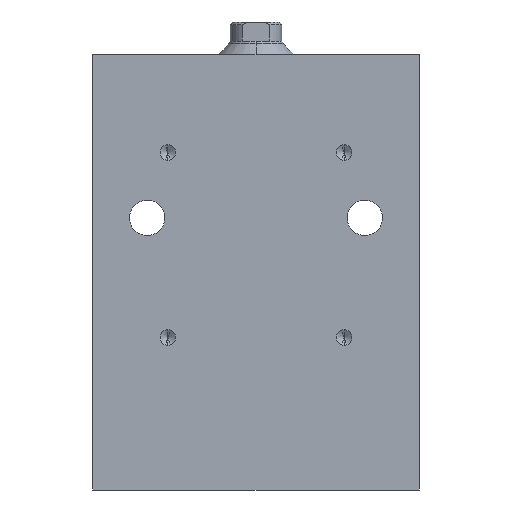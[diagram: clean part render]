
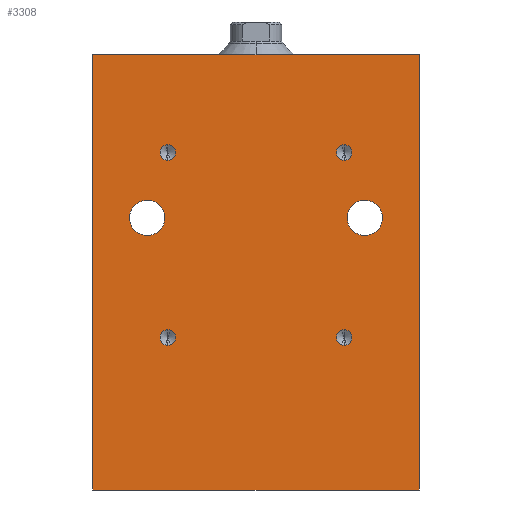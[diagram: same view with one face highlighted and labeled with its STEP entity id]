
A CAD part, left-side view. The second image highlights one B-rep face of the part: STEP entity #3308.
In plain terms, the highlighted planar face has unit normal (-1, 0, 0).
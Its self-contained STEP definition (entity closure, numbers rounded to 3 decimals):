
#74 = DIRECTION ( 'NONE',  ( -1., 0., 0. ) ) ;
#78 = CARTESIAN_POINT ( 'NONE',  ( -17.5, 16.2, -24. ) ) ;
#84 = LINE ( 'NONE', #1264, #3901 ) ;
#170 = CARTESIAN_POINT ( 'NONE',  ( -17.5, 20., -36. ) ) ;
#205 = VERTEX_POINT ( 'NONE', #2623 ) ;
#229 = AXIS2_PLACEMENT_3D ( 'NONE', #78, #672, #1895 ) ;
#324 = DIRECTION ( 'NONE',  ( 0., 0., 1. ) ) ;
#372 = DIRECTION ( 'NONE',  ( 0., 0., -1. ) ) ;
#393 = DIRECTION ( 'NONE',  ( -1., 0., 0. ) ) ;
#419 = CARTESIAN_POINT ( 'NONE',  ( -17.5, 30., -86. ) ) ;
#424 = VERTEX_POINT ( 'NONE', #1513 ) ;
#432 = AXIS2_PLACEMENT_3D ( 'NONE', #1280, #2557, #2540 ) ;
#446 = AXIS2_PLACEMENT_3D ( 'NONE', #2851, #74, #2534 ) ;
#452 = FACE_BOUND ( 'NONE', #1688, .T. ) ;
#463 = CARTESIAN_POINT ( 'NONE',  ( -17.5, -16.2, -22.575 ) ) ;
#468 = EDGE_CURVE ( 'NONE', #424, #1844, #2237, .T. ) ;
#480 = ORIENTED_EDGE ( 'NONE', *, *, #3655, .T. ) ;
#505 = EDGE_CURVE ( 'NONE', #1652, #540, #1966, .T. ) ;
#540 = VERTEX_POINT ( 'NONE', #2037 ) ;
#552 = CARTESIAN_POINT ( 'NONE',  ( -17.5, -20., -39.25 ) ) ;
#586 = CARTESIAN_POINT ( 'NONE',  ( -17.5, 20., -39.25 ) ) ;
#605 = ORIENTED_EDGE ( 'NONE', *, *, #4025, .F. ) ;
#672 = DIRECTION ( 'NONE',  ( -1., 0., 0. ) ) ;
#680 = LINE ( 'NONE', #967, #3375 ) ;
#709 = VERTEX_POINT ( 'NONE', #3195 ) ;
#710 = EDGE_CURVE ( 'NONE', #205, #2071, #1921, .T. ) ;
#711 = DIRECTION ( 'NONE',  ( 0., 0., 1. ) ) ;
#718 = AXIS2_PLACEMENT_3D ( 'NONE', #2424, #1423, #2036 ) ;
#728 = EDGE_CURVE ( 'NONE', #1884, #2219, #2169, .T. ) ;
#763 = CIRCLE ( 'NONE', #897, 1.425 ) ;
#827 = DIRECTION ( 'NONE',  ( -1., 0., 0. ) ) ;
#846 = CARTESIAN_POINT ( 'NONE',  ( -17.5, 16.2, -56.575 ) ) ;
#897 = AXIS2_PLACEMENT_3D ( 'NONE', #2841, #2798, #1902 ) ;
#899 = DIRECTION ( 'NONE',  ( 1., 0., 0. ) ) ;
#908 = AXIS2_PLACEMENT_3D ( 'NONE', #2515, #957, #372 ) ;
#957 = DIRECTION ( 'NONE',  ( 1., 0., 0. ) ) ;
#967 = CARTESIAN_POINT ( 'NONE',  ( -17.5, -30., -86. ) ) ;
#971 = ORIENTED_EDGE ( 'NONE', *, *, #1900, .F. ) ;
#1012 = FACE_BOUND ( 'NONE', #4026, .T. ) ;
#1021 = AXIS2_PLACEMENT_3D ( 'NONE', #2774, #3392, #2386 ) ;
#1077 = AXIS2_PLACEMENT_3D ( 'NONE', #3211, #393, #711 ) ;
#1099 = DIRECTION ( 'NONE',  ( -1., 0., 0. ) ) ;
#1121 = CARTESIAN_POINT ( 'NONE',  ( -17.5, 16.2, -25.425 ) ) ;
#1143 = ORIENTED_EDGE ( 'NONE', *, *, #1655, .F. ) ;
#1175 = ORIENTED_EDGE ( 'NONE', *, *, #3278, .F. ) ;
#1214 = CIRCLE ( 'NONE', #1709, 1.425 ) ;
#1243 = CARTESIAN_POINT ( 'NONE',  ( -17.5, -20., -36. ) ) ;
#1264 = CARTESIAN_POINT ( 'NONE',  ( -17.5, 30., -86. ) ) ;
#1280 = CARTESIAN_POINT ( 'NONE',  ( -17.5, 16.2, -58. ) ) ;
#1351 = DIRECTION ( 'NONE',  ( 0., 0., 1. ) ) ;
#1374 = ORIENTED_EDGE ( 'NONE', *, *, #468, .F. ) ;
#1384 = DIRECTION ( 'NONE',  ( 1., 0., 0. ) ) ;
#1389 = CIRCLE ( 'NONE', #446, 1.425 ) ;
#1416 = CIRCLE ( 'NONE', #3327, 1.425 ) ;
#1423 = DIRECTION ( 'NONE',  ( 1., 0., 0. ) ) ;
#1437 = VECTOR ( 'NONE', #3752, 1000. ) ;
#1455 = ORIENTED_EDGE ( 'NONE', *, *, #505, .F. ) ;
#1513 = CARTESIAN_POINT ( 'NONE',  ( -17.5, 30., -6. ) ) ;
#1518 = CIRCLE ( 'NONE', #1982, 3.25 ) ;
#1537 = ORIENTED_EDGE ( 'NONE', *, *, #2027, .T. ) ;
#1545 = EDGE_LOOP ( 'NONE', ( #971, #1175 ) ) ;
#1551 = DIRECTION ( 'NONE',  ( 0., 0., -1. ) ) ;
#1603 = FACE_OUTER_BOUND ( 'NONE', #2683, .T. ) ;
#1652 = VERTEX_POINT ( 'NONE', #1121 ) ;
#1655 = EDGE_CURVE ( 'NONE', #2219, #1884, #1214, .T. ) ;
#1658 = DIRECTION ( 'NONE',  ( 0., 0., 1. ) ) ;
#1688 = EDGE_LOOP ( 'NONE', ( #1143, #2303 ) ) ;
#1709 = AXIS2_PLACEMENT_3D ( 'NONE', #2651, #1099, #1658 ) ;
#1790 = ORIENTED_EDGE ( 'NONE', *, *, #2907, .T. ) ;
#1793 = ORIENTED_EDGE ( 'NONE', *, *, #710, .T. ) ;
#1805 = VERTEX_POINT ( 'NONE', #586 ) ;
#1808 = VERTEX_POINT ( 'NONE', #2091 ) ;
#1823 = CARTESIAN_POINT ( 'NONE',  ( -17.5, -16.2, -58. ) ) ;
#1844 = VERTEX_POINT ( 'NONE', #2132 ) ;
#1863 = CARTESIAN_POINT ( 'NONE',  ( -17.5, -30., -86. ) ) ;
#1884 = VERTEX_POINT ( 'NONE', #3955 ) ;
#1886 = EDGE_LOOP ( 'NONE', ( #2394, #480 ) ) ;
#1895 = DIRECTION ( 'NONE',  ( 0., 0., 1. ) ) ;
#1900 = EDGE_CURVE ( 'NONE', #1808, #3170, #1416, .T. ) ;
#1902 = DIRECTION ( 'NONE',  ( 0., 0., 1. ) ) ;
#1921 = LINE ( 'NONE', #419, #3425 ) ;
#1926 = CARTESIAN_POINT ( 'NONE',  ( -17.5, 30., -6. ) ) ;
#1966 = CIRCLE ( 'NONE', #229, 1.425 ) ;
#1982 = AXIS2_PLACEMENT_3D ( 'NONE', #1243, #899, #1551 ) ;
#1984 = ORIENTED_EDGE ( 'NONE', *, *, #2525, .F. ) ;
#1994 = FACE_BOUND ( 'NONE', #1886, .T. ) ;
#2000 = EDGE_CURVE ( 'NONE', #540, #1652, #763, .T. ) ;
#2019 = ORIENTED_EDGE ( 'NONE', *, *, #2051, .F. ) ;
#2027 = EDGE_CURVE ( 'NONE', #2071, #1844, #680, .T. ) ;
#2036 = DIRECTION ( 'NONE',  ( 0., 0., -1. ) ) ;
#2037 = CARTESIAN_POINT ( 'NONE',  ( -17.5, 16.2, -22.575 ) ) ;
#2051 = EDGE_CURVE ( 'NONE', #205, #424, #84, .T. ) ;
#2070 = DIRECTION ( 'NONE',  ( 0., 0., 1. ) ) ;
#2071 = VERTEX_POINT ( 'NONE', #1863 ) ;
#2091 = CARTESIAN_POINT ( 'NONE',  ( -17.5, -16.2, -56.575 ) ) ;
#2132 = CARTESIAN_POINT ( 'NONE',  ( -17.5, -30., -6. ) ) ;
#2142 = CARTESIAN_POINT ( 'NONE',  ( -17.5, -16.2, -59.425 ) ) ;
#2157 = VERTEX_POINT ( 'NONE', #3122 ) ;
#2169 = CIRCLE ( 'NONE', #432, 1.425 ) ;
#2181 = AXIS2_PLACEMENT_3D ( 'NONE', #3237, #827, #1351 ) ;
#2214 = DIRECTION ( 'NONE',  ( 0., 0., 1. ) ) ;
#2219 = VERTEX_POINT ( 'NONE', #846 ) ;
#2237 = LINE ( 'NONE', #1926, #1437 ) ;
#2303 = ORIENTED_EDGE ( 'NONE', *, *, #728, .F. ) ;
#2311 = VERTEX_POINT ( 'NONE', #463 ) ;
#2386 = DIRECTION ( 'NONE',  ( 0., 0., 1. ) ) ;
#2394 = ORIENTED_EDGE ( 'NONE', *, *, #3202, .T. ) ;
#2424 = CARTESIAN_POINT ( 'NONE',  ( -17.5, 20., -36. ) ) ;
#2515 = CARTESIAN_POINT ( 'NONE',  ( -17.5, -20., -36. ) ) ;
#2525 = EDGE_CURVE ( 'NONE', #2311, #2157, #3503, .T. ) ;
#2534 = DIRECTION ( 'NONE',  ( 0., 0., 1. ) ) ;
#2540 = DIRECTION ( 'NONE',  ( 0., 0., 1. ) ) ;
#2557 = DIRECTION ( 'NONE',  ( -1., 0., 0. ) ) ;
#2567 = FACE_BOUND ( 'NONE', #3247, .T. ) ;
#2590 = CIRCLE ( 'NONE', #2181, 1.425 ) ;
#2623 = CARTESIAN_POINT ( 'NONE',  ( -17.5, 30., -86. ) ) ;
#2651 = CARTESIAN_POINT ( 'NONE',  ( -17.5, 16.2, -58. ) ) ;
#2683 = EDGE_LOOP ( 'NONE', ( #1374, #2019, #1793, #1537 ) ) ;
#2737 = AXIS2_PLACEMENT_3D ( 'NONE', #170, #1384, #3842 ) ;
#2774 = CARTESIAN_POINT ( 'NONE',  ( -17.5, -16.2, -24. ) ) ;
#2798 = DIRECTION ( 'NONE',  ( -1., 0., 0. ) ) ;
#2802 = CIRCLE ( 'NONE', #908, 3.25 ) ;
#2841 = CARTESIAN_POINT ( 'NONE',  ( -17.5, 16.2, -24. ) ) ;
#2851 = CARTESIAN_POINT ( 'NONE',  ( -17.5, -16.2, -58. ) ) ;
#2907 = EDGE_CURVE ( 'NONE', #1805, #709, #2927, .T. ) ;
#2910 = PLANE ( 'NONE',  #1077 ) ;
#2927 = CIRCLE ( 'NONE', #2737, 3.25 ) ;
#2980 = EDGE_CURVE ( 'NONE', #709, #1805, #3913, .T. ) ;
#3051 = DIRECTION ( 'NONE',  ( -1., 0., 0. ) ) ;
#3122 = CARTESIAN_POINT ( 'NONE',  ( -17.5, -16.2, -25.425 ) ) ;
#3170 = VERTEX_POINT ( 'NONE', #2142 ) ;
#3172 = FACE_BOUND ( 'NONE', #1545, .T. ) ;
#3177 = DIRECTION ( 'NONE',  ( 0., -1., 0. ) ) ;
#3195 = CARTESIAN_POINT ( 'NONE',  ( -17.5, 20., -32.75 ) ) ;
#3202 = EDGE_CURVE ( 'NONE', #3408, #3284, #2802, .T. ) ;
#3211 = CARTESIAN_POINT ( 'NONE',  ( -17.5, 30., -86. ) ) ;
#3237 = CARTESIAN_POINT ( 'NONE',  ( -17.5, -16.2, -24. ) ) ;
#3247 = EDGE_LOOP ( 'NONE', ( #1984, #605 ) ) ;
#3278 = EDGE_CURVE ( 'NONE', #3170, #1808, #1389, .T. ) ;
#3284 = VERTEX_POINT ( 'NONE', #3795 ) ;
#3308 = ADVANCED_FACE ( 'NONE', ( #3818, #2567, #452, #3172, #1012, #1994, #1603 ), #2910, .T. ) ;
#3327 = AXIS2_PLACEMENT_3D ( 'NONE', #1823, #3051, #2070 ) ;
#3375 = VECTOR ( 'NONE', #324, 1000. ) ;
#3392 = DIRECTION ( 'NONE',  ( -1., 0., 0. ) ) ;
#3408 = VERTEX_POINT ( 'NONE', #552 ) ;
#3425 = VECTOR ( 'NONE', #3177, 1000. ) ;
#3503 = CIRCLE ( 'NONE', #1021, 1.425 ) ;
#3509 = ORIENTED_EDGE ( 'NONE', *, *, #2000, .F. ) ;
#3655 = EDGE_CURVE ( 'NONE', #3284, #3408, #1518, .T. ) ;
#3752 = DIRECTION ( 'NONE',  ( 0., -1., 0. ) ) ;
#3774 = EDGE_LOOP ( 'NONE', ( #3509, #1455 ) ) ;
#3795 = CARTESIAN_POINT ( 'NONE',  ( -17.5, -20., -32.75 ) ) ;
#3818 = FACE_BOUND ( 'NONE', #3774, .T. ) ;
#3842 = DIRECTION ( 'NONE',  ( 0., 0., -1. ) ) ;
#3901 = VECTOR ( 'NONE', #2214, 1000. ) ;
#3913 = CIRCLE ( 'NONE', #718, 3.25 ) ;
#3955 = CARTESIAN_POINT ( 'NONE',  ( -17.5, 16.2, -59.425 ) ) ;
#3977 = ORIENTED_EDGE ( 'NONE', *, *, #2980, .T. ) ;
#4025 = EDGE_CURVE ( 'NONE', #2157, #2311, #2590, .T. ) ;
#4026 = EDGE_LOOP ( 'NONE', ( #1790, #3977 ) ) ;
